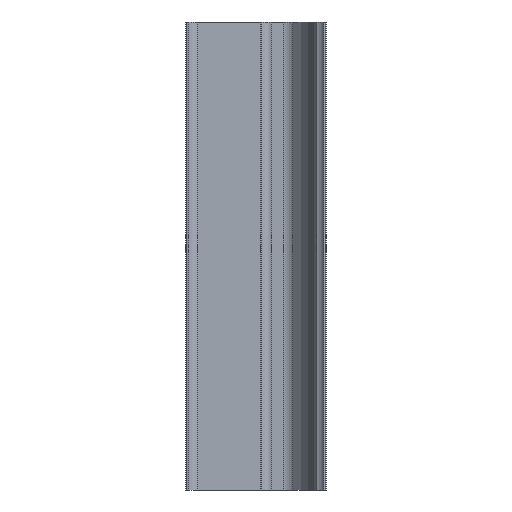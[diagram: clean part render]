
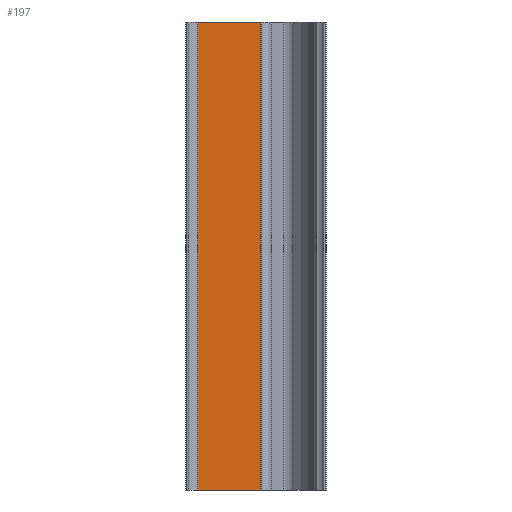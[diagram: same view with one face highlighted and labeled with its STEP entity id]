
A CAD part, front view. The second image highlights one B-rep face of the part: STEP entity #197.
In plain terms, the highlighted planar face has unit normal (0, -1, 0).
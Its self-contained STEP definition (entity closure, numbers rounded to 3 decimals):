
#69 = DIRECTION ( 'NONE',  ( -1., 0., 0. ) ) ;
#136 = ORIENTED_EDGE ( 'NONE', *, *, #1140, .F. ) ;
#162 = CARTESIAN_POINT ( 'NONE',  ( -1.5, 12.7, 100. ) ) ;
#183 = EDGE_CURVE ( 'NONE', #882, #745, #328, .T. ) ;
#197 = ADVANCED_FACE ( 'NONE', ( #421 ), #1061, .F. ) ;
#209 = AXIS2_PLACEMENT_3D ( 'NONE', #162, #696, #69 ) ;
#270 = CARTESIAN_POINT ( 'NONE',  ( -15., 12.7, 0. ) ) ;
#328 = LINE ( 'NONE', #431, #661 ) ;
#357 = EDGE_CURVE ( 'NONE', #742, #747, #473, .T. ) ;
#381 = ORIENTED_EDGE ( 'NONE', *, *, #415, .T. ) ;
#415 = EDGE_CURVE ( 'NONE', #882, #742, #488, .T. ) ;
#421 = FACE_OUTER_BOUND ( 'NONE', #829, .T. ) ;
#431 = CARTESIAN_POINT ( 'NONE',  ( -1.5, 12.7, 100. ) ) ;
#473 = LINE ( 'NONE', #992, #500 ) ;
#487 = VECTOR ( 'NONE', #768, 1000. ) ;
#488 = LINE ( 'NONE', #1079, #580 ) ;
#500 = VECTOR ( 'NONE', #800, 1000. ) ;
#562 = ORIENTED_EDGE ( 'NONE', *, *, #183, .F. ) ;
#580 = VECTOR ( 'NONE', #631, 1000. ) ;
#608 = DIRECTION ( 'NONE',  ( 1., 0., 0. ) ) ;
#631 = DIRECTION ( 'NONE',  ( 0., 0., -1. ) ) ;
#661 = VECTOR ( 'NONE', #608, 1000. ) ;
#696 = DIRECTION ( 'NONE',  ( 0., 1., 0. ) ) ;
#742 = VERTEX_POINT ( 'NONE', #270 ) ;
#745 = VERTEX_POINT ( 'NONE', #1072 ) ;
#747 = VERTEX_POINT ( 'NONE', #898 ) ;
#768 = DIRECTION ( 'NONE',  ( 0., 0., -1. ) ) ;
#800 = DIRECTION ( 'NONE',  ( 1., 0., 0. ) ) ;
#804 = LINE ( 'NONE', #979, #487 ) ;
#829 = EDGE_LOOP ( 'NONE', ( #1064, #136, #562, #381 ) ) ;
#882 = VERTEX_POINT ( 'NONE', #1004 ) ;
#898 = CARTESIAN_POINT ( 'NONE',  ( -1.5, 12.7, 0. ) ) ;
#979 = CARTESIAN_POINT ( 'NONE',  ( -1.5, 12.7, 100. ) ) ;
#992 = CARTESIAN_POINT ( 'NONE',  ( -1.5, 12.7, 0. ) ) ;
#1004 = CARTESIAN_POINT ( 'NONE',  ( -15., 12.7, 100. ) ) ;
#1061 = PLANE ( 'NONE',  #209 ) ;
#1064 = ORIENTED_EDGE ( 'NONE', *, *, #357, .T. ) ;
#1072 = CARTESIAN_POINT ( 'NONE',  ( -1.5, 12.7, 100. ) ) ;
#1079 = CARTESIAN_POINT ( 'NONE',  ( -15., 12.7, 100. ) ) ;
#1140 = EDGE_CURVE ( 'NONE', #745, #747, #804, .T. ) ;
